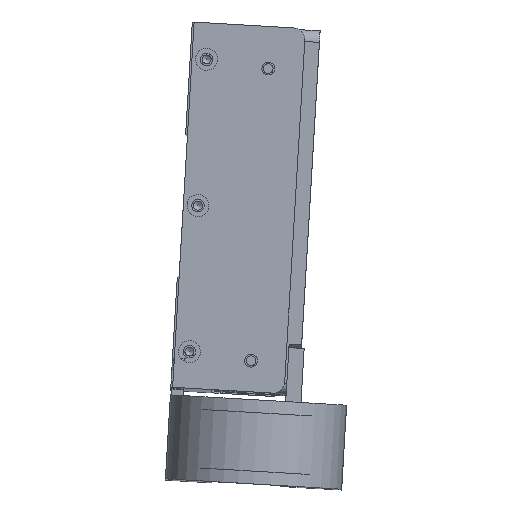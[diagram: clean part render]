
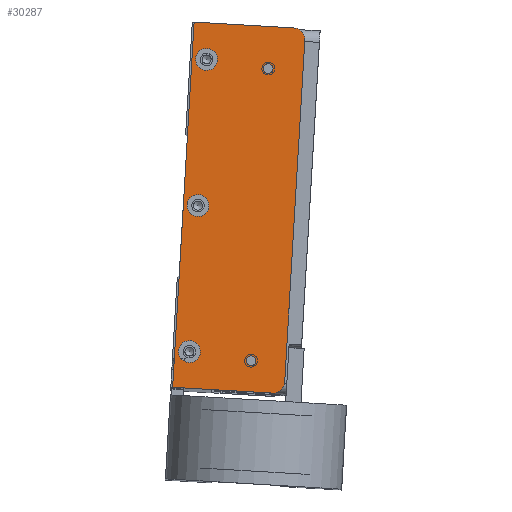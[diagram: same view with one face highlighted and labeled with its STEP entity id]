
A CAD part, top view. The second image highlights one B-rep face of the part: STEP entity #30287.
In plain terms, the highlighted planar face has unit normal (0, 0, 1) as drawn and (0, -1, 0) by its records, which use the part's own axes.
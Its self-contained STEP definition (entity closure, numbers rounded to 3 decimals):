
#899=PLANE($,#32967);
#2101=FACE_BOUND($,#5623,.T.);
#2102=FACE_BOUND($,#5624,.T.);
#2103=FACE_BOUND($,#5625,.T.);
#2104=FACE_BOUND($,#5626,.T.);
#2105=FACE_BOUND($,#5627,.T.);
#2106=FACE_BOUND($,#5628,.T.);
#5623=EDGE_LOOP($,(#24204));
#5624=EDGE_LOOP($,(#24205));
#5625=EDGE_LOOP($,(#24206));
#5626=EDGE_LOOP($,(#24207));
#5627=EDGE_LOOP($,(#24208));
#5628=EDGE_LOOP($,(#24209,#24210,#24211,#24212,#24213,#24214));
#7792=LINE($,#48226,#10386);
#7795=LINE($,#48242,#10389);
#7796=LINE($,#48244,#10390);
#7797=LINE($,#48246,#10391);
#10386=VECTOR($,#38750,93.65);
#10389=VECTOR($,#38765,27.325);
#10390=VECTOR($,#38766,100.);
#10391=VECTOR($,#38767,27.325);
#13006=CIRCLE($,#32964,3.175);
#13008=CIRCLE($,#32968,3.);
#13009=CIRCLE($,#32969,3.);
#13010=CIRCLE($,#32970,3.);
#13011=CIRCLE($,#32971,1.321);
#13012=CIRCLE($,#32972,1.321);
#13013=CIRCLE($,#32973,3.175);
#14815=VERTEX_POINT($,#48216);
#14816=VERTEX_POINT($,#48217);
#14819=VERTEX_POINT($,#48225);
#14821=VERTEX_POINT($,#48231);
#14822=VERTEX_POINT($,#48233);
#14823=VERTEX_POINT($,#48235);
#14824=VERTEX_POINT($,#48237);
#14825=VERTEX_POINT($,#48239);
#14826=VERTEX_POINT($,#48241);
#14827=VERTEX_POINT($,#48243);
#14828=VERTEX_POINT($,#48245);
#18249=EDGE_CURVE($,#14815,#14816,#13006,.T.);
#18253=EDGE_CURVE($,#14816,#14819,#7792,.T.);
#18256=EDGE_CURVE($,#14821,#14821,#13008,.T.);
#18257=EDGE_CURVE($,#14822,#14822,#13009,.T.);
#18258=EDGE_CURVE($,#14823,#14823,#13010,.T.);
#18259=EDGE_CURVE($,#14824,#14824,#13011,.T.);
#18260=EDGE_CURVE($,#14825,#14825,#13012,.T.);
#18261=EDGE_CURVE($,#14815,#14826,#7795,.T.);
#18262=EDGE_CURVE($,#14826,#14827,#7796,.T.);
#18263=EDGE_CURVE($,#14827,#14828,#7797,.T.);
#18264=EDGE_CURVE($,#14819,#14828,#13013,.T.);
#24204=ORIENTED_EDGE($,*,*,#18256,.T.);
#24205=ORIENTED_EDGE($,*,*,#18257,.T.);
#24206=ORIENTED_EDGE($,*,*,#18258,.T.);
#24207=ORIENTED_EDGE($,*,*,#18259,.T.);
#24208=ORIENTED_EDGE($,*,*,#18260,.T.);
#24209=ORIENTED_EDGE($,*,*,#18249,.F.);
#24210=ORIENTED_EDGE($,*,*,#18261,.T.);
#24211=ORIENTED_EDGE($,*,*,#18262,.T.);
#24212=ORIENTED_EDGE($,*,*,#18263,.T.);
#24213=ORIENTED_EDGE($,*,*,#18264,.F.);
#24214=ORIENTED_EDGE($,*,*,#18253,.F.);
#30287=ADVANCED_FACE($,(#2101,#2102,#2103,#2104,#2105,#2106),#899,.T.);
#32964=AXIS2_PLACEMENT_3D($,#48218,#38742,#38743);
#32967=AXIS2_PLACEMENT_3D($,#48230,#38753,#38754);
#32968=AXIS2_PLACEMENT_3D($,#48232,#38755,#38756);
#32969=AXIS2_PLACEMENT_3D($,#48234,#38757,#38758);
#32970=AXIS2_PLACEMENT_3D($,#48236,#38759,#38760);
#32971=AXIS2_PLACEMENT_3D($,#48238,#38761,#38762);
#32972=AXIS2_PLACEMENT_3D($,#48240,#38763,#38764);
#32973=AXIS2_PLACEMENT_3D($,#48247,#38768,#38769);
#38742=DIRECTION('center_axis',(0.,1.,0.));
#38743=DIRECTION('ref_axis',(0.707,0.,0.707));
#38750=DIRECTION($,(0.,0.,-1.));
#38753=DIRECTION('center_axis',(0.,-1.,0.));
#38754=DIRECTION('ref_axis',(0.,0.,-1.));
#38755=DIRECTION('center_axis',(0.,1.,0.));
#38756=DIRECTION('ref_axis',(1.,0.,0.));
#38757=DIRECTION('center_axis',(0.,1.,0.));
#38758=DIRECTION('ref_axis',(1.,0.,0.));
#38759=DIRECTION('center_axis',(0.,1.,0.));
#38760=DIRECTION('ref_axis',(1.,0.,0.));
#38761=DIRECTION('center_axis',(0.,1.,0.));
#38762=DIRECTION('ref_axis',(1.,0.,0.));
#38763=DIRECTION('center_axis',(0.,1.,0.));
#38764=DIRECTION('ref_axis',(1.,0.,0.));
#38765=DIRECTION($,(-1.,0.,0.));
#38766=DIRECTION($,(0.,0.,-1.));
#38767=DIRECTION($,(1.,0.,0.));
#38768=DIRECTION('center_axis',(0.,1.,0.));
#38769=DIRECTION('ref_axis',(0.707,0.,-0.707));
#48216=CARTESIAN_POINT('',(12.075,-2.5,50.));
#48217=CARTESIAN_POINT('',(15.25,-2.5,46.825));
#48218=CARTESIAN_POINT('Origin',(12.075,-2.5,46.825));
#48225=CARTESIAN_POINT('',(15.25,-2.5,-46.825));
#48226=CARTESIAN_POINT($,(15.25,-2.5,0.));
#48230=CARTESIAN_POINT('Origin',(15.25,-2.5,0.));
#48231=CARTESIAN_POINT('',(-8.25,-2.5,0.));
#48232=CARTESIAN_POINT('Origin',(-11.25,-2.5,0.));
#48233=CARTESIAN_POINT('',(-8.25,-2.5,40.));
#48234=CARTESIAN_POINT('Origin',(-11.25,-2.5,40.));
#48235=CARTESIAN_POINT('',(-8.25,-2.5,-40.));
#48236=CARTESIAN_POINT('Origin',(-11.25,-2.5,-40.));
#48237=CARTESIAN_POINT('',(7.071,-2.5,38.5));
#48238=CARTESIAN_POINT('Origin',(5.75,-2.5,38.5));
#48239=CARTESIAN_POINT('',(7.037,-2.5,-41.5));
#48240=CARTESIAN_POINT('Origin',(5.716,-2.5,-41.5));
#48241=CARTESIAN_POINT('',(-15.25,-2.5,50.));
#48242=CARTESIAN_POINT($,(15.25,-2.5,50.));
#48243=CARTESIAN_POINT('',(-15.25,-2.5,-50.));
#48244=CARTESIAN_POINT($,(-15.25,-2.5,0.));
#48245=CARTESIAN_POINT('',(12.075,-2.5,-50.));
#48246=CARTESIAN_POINT($,(15.25,-2.5,-50.));
#48247=CARTESIAN_POINT('Origin',(12.075,-2.5,-46.825));
